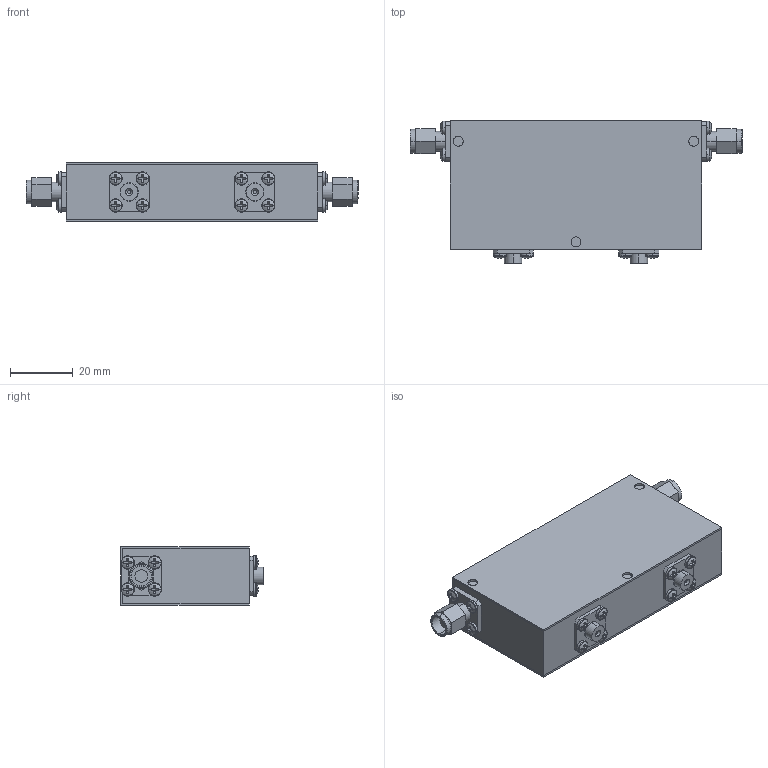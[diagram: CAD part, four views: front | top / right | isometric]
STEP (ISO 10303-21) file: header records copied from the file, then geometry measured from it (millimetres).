
FILE_DESCRIPTION (( 'STEP AP214' ), '1' );
FILE_NAME ('Package 12 Iso MM.step', '2021-12-01T20:57:16', ( '' ), ( '' ), 'SwSTEP 2.0', 'SolidWorks 2016', '' );
FILE_SCHEMA (( 'AUTOMOTIVE_DESIGN' ));
Length unit declared in the file: inch
Products named in the file (6): Package Size 12; 030013-1A; Package 12; pan cross head_ai_CR-PHMS 0.086-56x0.125x0.125-N; Delta SMA-Male; Package 12 Iso MM
Assembly tree (22 placements, depth 2):
  Package 12 Iso MM
    Package 12
    pan cross head_ai_CR-PHMS 0.086-56x0.125x0.125-N  x16
    Delta SMA-Male  x2
    030013-1A  x2
    Package Size 12
Bounding box: 106.02 x 45.59 x 18.54 mm (x, y, z)
Volume: 63151 mm3; surface area: 30622.1 mm2
Topology: 22 solids, 22 shells, 554 faces, 1260 edges, 776 vertices
Faces by surface type: plane 314, cylinder 152, torus 48, sphere 32, cone 8
Entity records: 4324 total; most frequent: DIRECTION 784, CARTESIAN_POINT 673, ORIENTED_EDGE 632, EDGE_CURVE 316, AXIS2_PLACEMENT_3D 313, VERTEX_POINT 202, EDGE_LOOP 168, LINE 158
